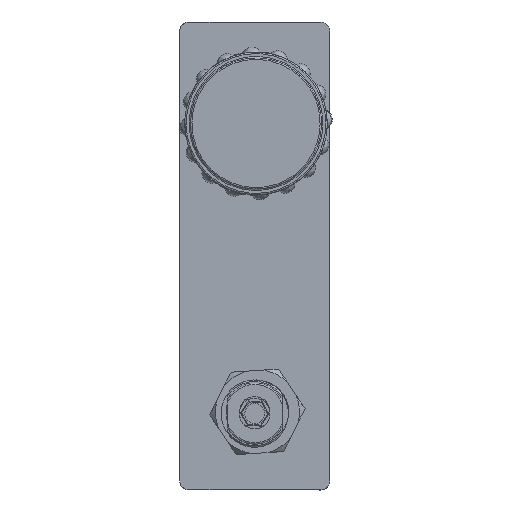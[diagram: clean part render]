
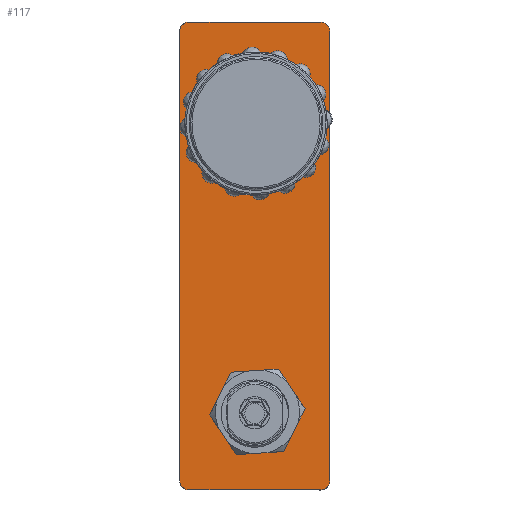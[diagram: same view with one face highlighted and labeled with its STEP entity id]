
A CAD part, front view. The second image highlights one B-rep face of the part: STEP entity #117.
In plain terms, the highlighted planar face has unit normal (0, -1, 0).
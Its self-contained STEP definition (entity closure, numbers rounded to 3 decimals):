
#7 = EDGE_CURVE ( 'NONE', #43, #92, #19091, .T. ) ;
#8 = VERTEX_POINT ( 'NONE', #19085 ) ;
#14 = EDGE_CURVE ( 'NONE', #92, #25, #19074, .T. ) ;
#19 = VERTEX_POINT ( 'NONE', #19076 ) ;
#23 = EDGE_CURVE ( 'NONE', #5440, #5399, #19119, .T. ) ;
#25 = VERTEX_POINT ( 'NONE', #19152 ) ;
#43 = VERTEX_POINT ( 'NONE', #19240 ) ;
#47 = VERTEX_POINT ( 'NONE', #19202 ) ;
#72 = EDGE_CURVE ( 'NONE', #19, #43, #19266, .T. ) ;
#77 = EDGE_CURVE ( 'NONE', #8, #19, #19254, .T. ) ;
#92 = VERTEX_POINT ( 'NONE', #19315 ) ;
#106 = EDGE_CURVE ( 'NONE', #47, #8, #19347, .T. ) ;
#117 = ADVANCED_FACE ( 'NONE', ( #19366, #19354, #19359 ), #19353, .T. ) ;
#118 = ORIENTED_EDGE ( 'NONE', *, *, #72, .T. ) ;
#139 = ORIENTED_EDGE ( 'NONE', *, *, #5555, .T. ) ;
#140 = ORIENTED_EDGE ( 'NONE', *, *, #77, .T. ) ;
#141 = ORIENTED_EDGE ( 'NONE', *, *, #23, .T. ) ;
#145 = VERTEX_POINT ( 'NONE', #19417 ) ;
#148 = ORIENTED_EDGE ( 'NONE', *, *, #5535, .T. ) ;
#150 = ORIENTED_EDGE ( 'NONE', *, *, #7, .T. ) ;
#155 = EDGE_LOOP ( 'NONE', ( #148, #141 ) ) ;
#157 = ORIENTED_EDGE ( 'NONE', *, *, #214, .T. ) ;
#175 = ORIENTED_EDGE ( 'NONE', *, *, #202, .T. ) ;
#183 = ORIENTED_EDGE ( 'NONE', *, *, #106, .T. ) ;
#186 = ORIENTED_EDGE ( 'NONE', *, *, #188, .T. ) ;
#187 = ORIENTED_EDGE ( 'NONE', *, *, #14, .T. ) ;
#188 = EDGE_CURVE ( 'NONE', #145, #47, #19462, .T. ) ;
#199 = EDGE_LOOP ( 'NONE', ( #139, #175 ) ) ;
#201 = EDGE_LOOP ( 'NONE', ( #218, #186, #183, #140, #118, #150, #187, #157 ) ) ;
#202 = EDGE_CURVE ( 'NONE', #5317, #5522, #19516, .T. ) ;
#209 = VERTEX_POINT ( 'NONE', #19280 ) ;
#211 = EDGE_CURVE ( 'NONE', #209, #145, #19282, .T. ) ;
#214 = EDGE_CURVE ( 'NONE', #25, #209, #19561, .T. ) ;
#218 = ORIENTED_EDGE ( 'NONE', *, *, #211, .T. ) ;
#5317 = VERTEX_POINT ( 'NONE', #13423 ) ;
#5399 = VERTEX_POINT ( 'NONE', #13586 ) ;
#5440 = VERTEX_POINT ( 'NONE', #13647 ) ;
#5522 = VERTEX_POINT ( 'NONE', #13754 ) ;
#5535 = EDGE_CURVE ( 'NONE', #5399, #5440, #13018, .T. ) ;
#5555 = EDGE_CURVE ( 'NONE', #5522, #5317, #13762, .T. ) ;
#13018 = CIRCLE ( 'NONE', #13330, 11. ) ;
#13209 = DIRECTION ( 'NONE',  ( 0., 1., 0. ) ) ;
#13210 = CARTESIAN_POINT ( 'NONE',  ( 51.5, -2., 0. ) ) ;
#13325 = DIRECTION ( 'NONE',  ( 0., 0., 1. ) ) ;
#13330 = AXIS2_PLACEMENT_3D ( 'NONE', #13210, #13209, #13325 ) ;
#13423 = CARTESIAN_POINT ( 'NONE',  ( -42.3, -2., -22.5 ) ) ;
#13586 = CARTESIAN_POINT ( 'NONE',  ( 51.5, -2., 11. ) ) ;
#13647 = CARTESIAN_POINT ( 'NONE',  ( 51.5, -2., -11. ) ) ;
#13754 = CARTESIAN_POINT ( 'NONE',  ( -42.3, -2., 22.5 ) ) ;
#13762 = CIRCLE ( 'NONE', #13783, 22.5 ) ;
#13783 = AXIS2_PLACEMENT_3D ( 'NONE', #13806, #13805, #13804 ) ;
#13804 = DIRECTION ( 'NONE',  ( 0., 0., 1. ) ) ;
#13805 = DIRECTION ( 'NONE',  ( 0., 1., 0. ) ) ;
#13806 = CARTESIAN_POINT ( 'NONE',  ( -42.3, -2., 0. ) ) ;
#19074 = CIRCLE ( 'NONE', #19090, 3. ) ;
#19075 = AXIS2_PLACEMENT_3D ( 'NONE', #19116, #19110, #19109 ) ;
#19076 = CARTESIAN_POINT ( 'NONE',  ( 73.5, -2., -24.5 ) ) ;
#19079 = CARTESIAN_POINT ( 'NONE',  ( 73.5, -2., 21.5 ) ) ;
#19082 = DIRECTION ( 'NONE',  ( 0., 0., 1. ) ) ;
#19083 = VECTOR ( 'NONE', #19082, 1000. ) ;
#19084 = CARTESIAN_POINT ( 'NONE',  ( 76.5, -2., -21.5 ) ) ;
#19085 = CARTESIAN_POINT ( 'NONE',  ( -73.5, -2., -24.5 ) ) ;
#19090 = AXIS2_PLACEMENT_3D ( 'NONE', #19079, #19121, #19120 ) ;
#19091 = LINE ( 'NONE', #19084, #19083 ) ;
#19109 = DIRECTION ( 'NONE',  ( 0., 0., 1. ) ) ;
#19110 = DIRECTION ( 'NONE',  ( 0., 1., 0. ) ) ;
#19116 = CARTESIAN_POINT ( 'NONE',  ( 51.5, -2., 0. ) ) ;
#19119 = CIRCLE ( 'NONE', #19075, 11. ) ;
#19120 = DIRECTION ( 'NONE',  ( 0., 0., 1. ) ) ;
#19121 = DIRECTION ( 'NONE',  ( 0., -1., 0. ) ) ;
#19152 = CARTESIAN_POINT ( 'NONE',  ( 73.5, -2., 24.5 ) ) ;
#19202 = CARTESIAN_POINT ( 'NONE',  ( -76.5, -2., -21.5 ) ) ;
#19215 = CARTESIAN_POINT ( 'NONE',  ( 73.5, -2., -21.5 ) ) ;
#19240 = CARTESIAN_POINT ( 'NONE',  ( 76.5, -2., -21.5 ) ) ;
#19251 = DIRECTION ( 'NONE',  ( 1., 0., 0. ) ) ;
#19252 = VECTOR ( 'NONE', #19251, 1000. ) ;
#19253 = CARTESIAN_POINT ( 'NONE',  ( -73.5, -2., -24.5 ) ) ;
#19254 = LINE ( 'NONE', #19253, #19252 ) ;
#19257 = DIRECTION ( 'NONE',  ( 0., 0., 1. ) ) ;
#19258 = DIRECTION ( 'NONE',  ( 0., -1., 0. ) ) ;
#19259 = AXIS2_PLACEMENT_3D ( 'NONE', #19215, #19258, #19257 ) ;
#19266 = CIRCLE ( 'NONE', #19259, 3. ) ;
#19274 = CARTESIAN_POINT ( 'NONE',  ( -73.5, -2., 21.5 ) ) ;
#19275 = AXIS2_PLACEMENT_3D ( 'NONE', #19274, #19528, #19490 ) ;
#19280 = CARTESIAN_POINT ( 'NONE',  ( -73.5, -2., 24.5 ) ) ;
#19282 = CIRCLE ( 'NONE', #19275, 3. ) ;
#19287 = AXIS2_PLACEMENT_3D ( 'NONE', #19292, #19383, #19337 ) ;
#19292 = CARTESIAN_POINT ( 'NONE',  ( -73.5, -2., -21.5 ) ) ;
#19315 = CARTESIAN_POINT ( 'NONE',  ( 76.5, -2., 21.5 ) ) ;
#19337 = DIRECTION ( 'NONE',  ( 0., 0., 1. ) ) ;
#19338 = AXIS2_PLACEMENT_3D ( 'NONE', #19351, #19355, #19358 ) ;
#19347 = CIRCLE ( 'NONE', #19287, 3. ) ;
#19351 = CARTESIAN_POINT ( 'NONE',  ( -73.5, -2., -21.5 ) ) ;
#19353 = PLANE ( 'NONE',  #19338 ) ;
#19354 = FACE_OUTER_BOUND ( 'NONE', #201, .T. ) ;
#19355 = DIRECTION ( 'NONE',  ( 0., -1., 0. ) ) ;
#19358 = DIRECTION ( 'NONE',  ( 0., 0., -1. ) ) ;
#19359 = FACE_BOUND ( 'NONE', #155, .T. ) ;
#19366 = FACE_BOUND ( 'NONE', #199, .T. ) ;
#19383 = DIRECTION ( 'NONE',  ( 0., -1., 0. ) ) ;
#19417 = CARTESIAN_POINT ( 'NONE',  ( -76.5, -2., 21.5 ) ) ;
#19461 = CARTESIAN_POINT ( 'NONE',  ( -76.5, -2., -21.5 ) ) ;
#19462 = LINE ( 'NONE', #19461, #19532 ) ;
#19490 = DIRECTION ( 'NONE',  ( 0., 0., 1. ) ) ;
#19514 = DIRECTION ( 'NONE',  ( 0., 0., 1. ) ) ;
#19515 = AXIS2_PLACEMENT_3D ( 'NONE', #19525, #19533, #19514 ) ;
#19516 = CIRCLE ( 'NONE', #19515, 22.5 ) ;
#19525 = CARTESIAN_POINT ( 'NONE',  ( -42.3, -2., 0. ) ) ;
#19528 = DIRECTION ( 'NONE',  ( 0., -1., 0. ) ) ;
#19531 = DIRECTION ( 'NONE',  ( 0., 0., -1. ) ) ;
#19532 = VECTOR ( 'NONE', #19531, 1000. ) ;
#19533 = DIRECTION ( 'NONE',  ( 0., 1., 0. ) ) ;
#19558 = DIRECTION ( 'NONE',  ( -1., 0., 0. ) ) ;
#19559 = VECTOR ( 'NONE', #19558, 1000. ) ;
#19560 = CARTESIAN_POINT ( 'NONE',  ( -73.5, -2., 24.5 ) ) ;
#19561 = LINE ( 'NONE', #19560, #19559 ) ;
